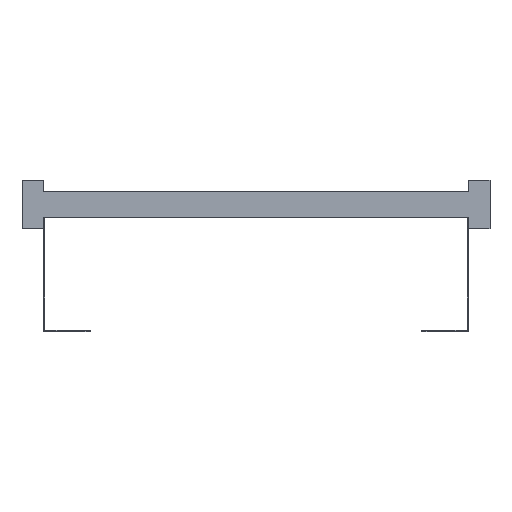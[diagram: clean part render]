
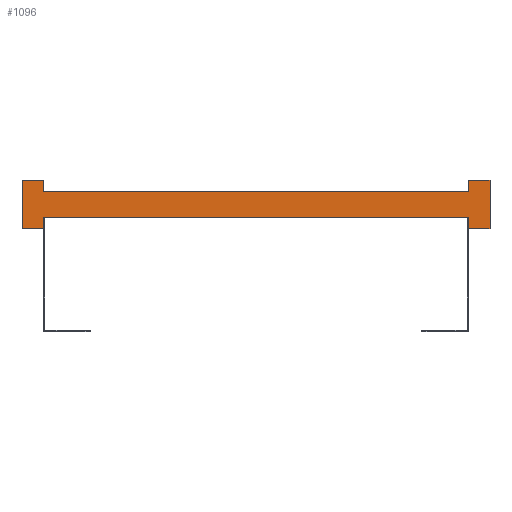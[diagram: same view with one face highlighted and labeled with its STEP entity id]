
A CAD part, front view. The second image highlights one B-rep face of the part: STEP entity #1096.
In plain terms, the highlighted planar face has unit normal (0, -1, 0).
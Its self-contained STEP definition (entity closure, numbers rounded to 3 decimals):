
#113=DIRECTION('',(0.,0.,1.));
#114=VECTOR('',#113,13.5);
#115=CARTESIAN_POINT('',(250.,0.,-28.5));
#116=LINE('',#115,#114);
#117=DIRECTION('',(0.,0.,-1.));
#118=VECTOR('',#117,13.5);
#119=CARTESIAN_POINT('',(-250.,0.,-15.));
#120=LINE('',#119,#118);
#121=DIRECTION('',(-1.,0.,0.));
#122=VECTOR('',#121,25.);
#123=CARTESIAN_POINT('',(-250.,0.,-28.5));
#124=LINE('',#123,#122);
#125=DIRECTION('',(0.,0.,1.));
#126=VECTOR('',#125,57.);
#127=CARTESIAN_POINT('',(-275.,0.,-28.5));
#128=LINE('',#127,#126);
#129=DIRECTION('',(1.,0.,0.));
#130=VECTOR('',#129,25.);
#131=CARTESIAN_POINT('',(-275.,0.,28.5));
#132=LINE('',#131,#130);
#133=DIRECTION('',(0.,0.,-1.));
#134=VECTOR('',#133,13.5);
#135=CARTESIAN_POINT('',(-250.,0.,28.5));
#136=LINE('',#135,#134);
#137=DIRECTION('',(0.,0.,1.));
#138=VECTOR('',#137,13.5);
#139=CARTESIAN_POINT('',(250.,0.,15.));
#140=LINE('',#139,#138);
#141=DIRECTION('',(1.,0.,0.));
#142=VECTOR('',#141,25.);
#143=CARTESIAN_POINT('',(250.,0.,28.5));
#144=LINE('',#143,#142);
#145=DIRECTION('',(0.,0.,-1.));
#146=VECTOR('',#145,57.);
#147=CARTESIAN_POINT('',(275.,0.,28.5));
#148=LINE('',#147,#146);
#149=DIRECTION('',(-1.,0.,0.));
#150=VECTOR('',#149,25.);
#151=CARTESIAN_POINT('',(275.,0.,-28.5));
#152=LINE('',#151,#150);
#817=DIRECTION('',(1.,0.,0.));
#818=VECTOR('',#817,500.);
#819=CARTESIAN_POINT('',(-250.,0.,-15.));
#820=LINE('',#819,#818);
#829=DIRECTION('',(1.,0.,0.));
#830=VECTOR('',#829,500.);
#831=CARTESIAN_POINT('',(-250.,0.,15.));
#832=LINE('',#831,#830);
#833=CARTESIAN_POINT('',(-275.,0.,28.5));
#834=CARTESIAN_POINT('',(-250.,0.,28.5));
#835=VERTEX_POINT('',#833);
#836=VERTEX_POINT('',#834);
#837=CARTESIAN_POINT('',(-250.,0.,-28.5));
#838=CARTESIAN_POINT('',(-275.,0.,-28.5));
#839=VERTEX_POINT('',#837);
#840=VERTEX_POINT('',#838);
#841=CARTESIAN_POINT('',(275.,0.,28.5));
#842=CARTESIAN_POINT('',(275.,0.,-28.5));
#843=VERTEX_POINT('',#841);
#844=VERTEX_POINT('',#842);
#845=CARTESIAN_POINT('',(250.,0.,-28.5));
#846=VERTEX_POINT('',#845);
#847=CARTESIAN_POINT('',(250.,0.,28.5));
#848=VERTEX_POINT('',#847);
#865=CARTESIAN_POINT('',(-250.,0.,-15.));
#867=VERTEX_POINT('',#865);
#869=CARTESIAN_POINT('',(-250.,0.,15.));
#871=VERTEX_POINT('',#869);
#873=CARTESIAN_POINT('',(250.,0.,-15.));
#875=VERTEX_POINT('',#873);
#877=CARTESIAN_POINT('',(250.,0.,15.));
#879=VERTEX_POINT('',#877);
#1065=CARTESIAN_POINT('',(0.,0.,0.));
#1066=DIRECTION('',(0.,1.,0.));
#1067=DIRECTION('',(1.,0.,0.));
#1068=AXIS2_PLACEMENT_3D('',#1065,#1066,#1067);
#1069=PLANE('',#1068);
#1071=ORIENTED_EDGE('',*,*,#1070,.T.);
#1073=ORIENTED_EDGE('',*,*,#1072,.F.);
#1075=ORIENTED_EDGE('',*,*,#1074,.T.);
#1077=ORIENTED_EDGE('',*,*,#1076,.T.);
#1079=ORIENTED_EDGE('',*,*,#1078,.T.);
#1081=ORIENTED_EDGE('',*,*,#1080,.T.);
#1083=ORIENTED_EDGE('',*,*,#1082,.T.);
#1085=ORIENTED_EDGE('',*,*,#1084,.T.);
#1087=ORIENTED_EDGE('',*,*,#1086,.T.);
#1089=ORIENTED_EDGE('',*,*,#1088,.T.);
#1091=ORIENTED_EDGE('',*,*,#1090,.T.);
#1093=ORIENTED_EDGE('',*,*,#1092,.T.);
#1094=EDGE_LOOP('',(#1071,#1073,#1075,#1077,#1079,#1081,#1083,#1085,#1087,#1089,
#1091,#1093));
#1095=FACE_OUTER_BOUND('',#1094,.F.);
#1070=EDGE_CURVE('',#846,#875,#116,.T.);
#1072=EDGE_CURVE('',#867,#875,#820,.T.);
#1074=EDGE_CURVE('',#867,#839,#120,.T.);
#1076=EDGE_CURVE('',#839,#840,#124,.T.);
#1078=EDGE_CURVE('',#840,#835,#128,.T.);
#1080=EDGE_CURVE('',#835,#836,#132,.T.);
#1082=EDGE_CURVE('',#836,#871,#136,.T.);
#1084=EDGE_CURVE('',#871,#879,#832,.T.);
#1086=EDGE_CURVE('',#879,#848,#140,.T.);
#1088=EDGE_CURVE('',#848,#843,#144,.T.);
#1090=EDGE_CURVE('',#843,#844,#148,.T.);
#1092=EDGE_CURVE('',#844,#846,#152,.T.);
#1096=ADVANCED_FACE('',(#1095),#1069,.F.);
